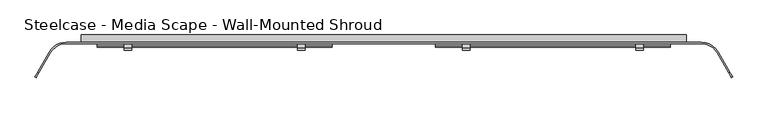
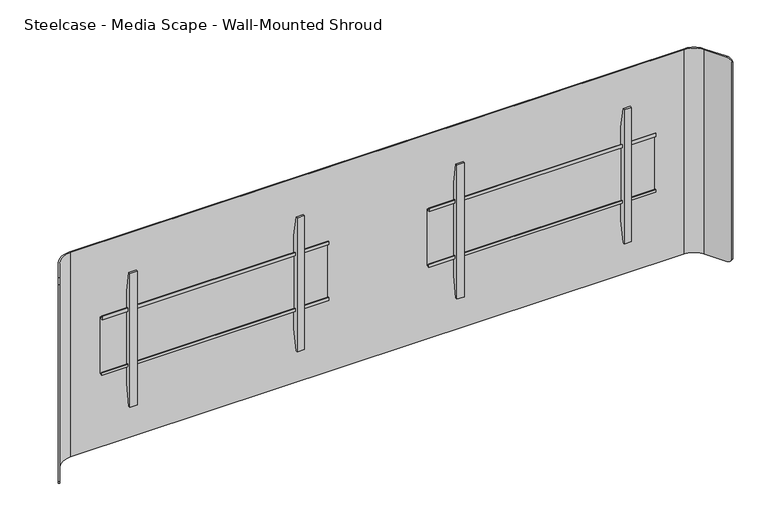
"""IFC4 building model written with IfcOpenShell, lengths in millimetres: furniture geometry, Steelcase - Media Scape - Wall-Mounted Shroud : Dual - 46''."""

from ifc_helpers import new_model, si_unit, frame, origin, place, context, project, spatial, polyline, circle_curve, outline, extrude, source, transform, mapped, element, save
from ifc_brep_helpers import plane_surface, cylinder_surface, revolved_surface, advanced_brep


def steelcase_media_scape_wall_mounted_shroud_8cf0ba45(model_context):
    return source(origin(), model_context, "Body", "SolidModel", [
        extrude(outline(polyline([(-42.4942785, 1326.5504726), (-42.4942785, 1338.5645649), (-39.8272175, 1338.5645649), (-39.8272175, 1329.217461), (-29.9720009, 1329.217461), (-29.9720009, 1114.8922438), (-42.3164551, 1114.8922438), (-42.3164551, 1125.8142515), (-39.649394, 1125.8142515), (-39.649394, 1117.557052), (-32.6531824, 1117.557052), (-32.6531824, 1326.5504726), (-42.4942785, 1326.5504726)])), frame((179.451, 0.0, 0.0), z_axis=(1.0, 0.0, 0.0), x_axis=(0.0, 1.0, 0.0)), (0.0, 0.0, 1.0), 812.8),
        extrude(outline(polyline([(-32.6531824, 1397.4971148), (-32.6531824, 1045.6825607), (-46.5049349, 968.0546949), (-53.3399828, 968.0546949), (-53.3399828, 1476.0547192), (-46.5050076, 1476.0547192), (-32.6531824, 1397.4971148)])), frame((273.052426, 0.0, 0.0), z_axis=(1.0, 0.0, 0.0), x_axis=(0.0, 1.0, 0.0)), (0.0, 0.0, 1.0), 26.1592872),
        extrude(outline(polyline([(-32.6531824, 1397.4971148), (-32.6531824, 1045.6825607), (-46.5049349, 968.0546949), (-53.3399828, 968.0546949), (-53.3399828, 1476.0547192), (-46.5050076, 1476.0547192), (-32.6531824, 1397.4971148)])), frame((872.4902868, 0.0, 0.0), z_axis=(1.0, 0.0, 0.0), x_axis=(0.0, 1.0, 0.0)), (0.0, 0.0, 1.0), 26.1592872),
        extrude(outline(polyline([(-42.4942785, 1326.5504726), (-42.4942785, 1338.5645649), (-39.8272175, 1338.5645649), (-39.8272175, 1329.217461), (-29.9720009, 1329.217461), (-29.9720009, 1114.8922438), (-42.3164551, 1114.8922438), (-42.3164551, 1125.8142515), (-39.649394, 1125.8142515), (-39.649394, 1117.557052), (-32.6531824, 1117.557052), (-32.6531824, 1326.5504726), (-42.4942785, 1326.5504726)])), frame((-992.251, 0.0, 0.0), z_axis=(1.0, 0.0, 0.0), x_axis=(0.0, 1.0, 0.0)), (0.0, 0.0, 1.0), 812.8),
        extrude(outline(polyline([(-32.6531824, 1397.4971148), (-32.6531824, 1045.6825607), (-46.5049349, 968.0546949), (-53.3399828, 968.0546949), (-53.3399828, 1476.0547192), (-46.5050076, 1476.0547192), (-32.6531824, 1397.4971148)])), frame((-299.2117132, 0.0, 0.0), z_axis=(1.0, 0.0, 0.0), x_axis=(0.0, 1.0, 0.0)), (0.0, 0.0, 1.0), 26.1592872),
        extrude(outline(polyline([(-32.6531824, 1397.4971148), (-32.6531824, 1045.6825607), (-46.5049349, 968.0546949), (-53.3399828, 968.0546949), (-53.3399828, 1476.0547192), (-46.5050076, 1476.0547192), (-32.6531824, 1397.4971148)])), frame((-898.649574, 0.0, 0.0), z_axis=(1.0, 0.0, 0.0), x_axis=(0.0, 1.0, 0.0)), (0.0, 0.0, 1.0), 26.1592872),
        advanced_brep(
        [(-1154.5586135, -61.722, 1610.614), (-1099.566002, -29.9720009, 1610.614), (1099.566, -29.9720009, 1610.614), (1154.5586135, -61.722, 1610.614), (1194.679586, -131.2135628, 1610.614), (1198.6390541, -128.9275628, 1610.614), (1158.5180817, -59.436, 1610.614), (1099.566002, -25.4, 1610.614), (-1099.566, -25.4, 1610.614), (-1158.5180817, -59.436, 1610.614), (-1198.6421659, -128.9329524, 1610.614), (-1194.6826977, -131.2189524, 1610.614), (-1158.5180817, -59.436, 835.914), (-1099.566002, -25.4, 835.914), (1099.566, -25.4, 835.914), (1158.5180817, -59.436, 835.914), (1198.6906629, -129.0169518, 835.914), (1194.7311948, -131.3029518, 835.914), (1154.5586135, -61.722, 835.914), (1099.566002, -29.9720009, 835.914), (-1099.566, -29.9720009, 835.914), (-1154.5586135, -61.722, 835.914), (-1194.7454014, -131.3275584, 835.914), (-1198.7048695, -129.0415584, 835.914), (-1208.2090632, -145.5033047, 849.5242766), (-1208.2090632, -145.5033047, 1596.6227735), (-1204.2495951, -147.7893047, 1596.6227735), (-1204.2495951, -147.7893047, 849.5242766), (1204.2270866, -147.7503189, 849.4756893), (1204.2270866, -147.7503189, 1596.7433849), (1208.1865547, -145.4643189, 1596.7433849), (1208.1865547, -145.4643189, 849.4756893)],
        [
            (0, 1, circle_curve(frame((-1099.566002, -93.4719991, 1610.614), z_axis=(0.0, 0.0, -1.0), x_axis=(0.0, 1.0, 0.0)), 63.4999981)),
            (1, 2),
            (2, 3, circle_curve(frame((1099.566002, -93.4719991, 1610.614), z_axis=(0.0, 0.0, -1.0), x_axis=(0.0, 1.0, 0.0)), 63.4999981)),
            (3, 4),
            (4, 5),
            (5, 6),
            (6, 7, circle_curve(frame((1099.5660004, -93.472, 1610.614), z_axis=(0.0, 0.0, 1.0), x_axis=(0.0, 1.0, 0.0)), 68.072)),
            (7, 8),
            (8, 9, circle_curve(frame((-1099.5660004, -93.472, 1610.614), z_axis=(0.0, 0.0, 1.0), x_axis=(0.0, 1.0, 0.0)), 68.072)),
            (9, 10),
            (10, 11),
            (11, 0),
            (12, 13, circle_curve(frame((-1099.5660004, -93.472, 835.914), z_axis=(0.0, 0.0, -1.0), x_axis=(0.0, 1.0, 0.0)), 68.072)),
            (13, 14),
            (14, 15, circle_curve(frame((1099.5660004, -93.472, 835.914), z_axis=(0.0, 0.0, -1.0), x_axis=(0.0, 1.0, 0.0)), 68.072)),
            (15, 16),
            (16, 17),
            (17, 18),
            (18, 19, circle_curve(frame((1099.566002, -93.4719991, 835.914), z_axis=(0.0, 0.0, 1.0), x_axis=(0.0, 1.0, 0.0)), 63.4999981)),
            (19, 20),
            (20, 21, circle_curve(frame((-1099.566002, -93.4719991, 835.914), z_axis=(0.0, 0.0, 1.0), x_axis=(0.0, 1.0, 0.0)), 63.4999981)),
            (21, 22),
            (22, 23),
            (23, 12),
            (0, 21),
            (20, 1),
            (8, 13),
            (12, 9),
            (23, 24, circle_curve(frame((-1198.7048695, -129.0415584, 855.9928872), z_axis=(-0.8660254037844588, 0.49999999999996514, 0.0), x_axis=(-0.49999999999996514, -0.8660254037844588, 0.0)), 20.0788872)),
            (24, 25),
            (25, 10, circle_curve(frame((-1198.6421659, -128.9329524, 1590.5351128), z_axis=(-0.866025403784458, 0.4999999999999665, 0.0), x_axis=(-0.4999999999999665, -0.866025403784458, 0.0)), 20.0788872)),
            (26, 25),
            (24, 27),
            (27, 26),
            (11, 26, circle_curve(frame((-1194.6826977, -131.2189524, 1590.5351128), z_axis=(0.866025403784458, -0.4999999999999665, 0.0), x_axis=(-0.4999999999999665, -0.866025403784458, 0.0)), 20.0788872)),
            (27, 22, circle_curve(frame((-1194.7454014, -131.3275584, 855.9928872), z_axis=(0.8660254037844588, -0.49999999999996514, 0.0), x_axis=(-0.49999999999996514, -0.8660254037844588, 0.0)), 20.0788872)),
            (7, 14),
            (19, 2),
            (3, 18),
            (17, 28, circle_curve(frame((1194.7311948, -131.3029518, 855.9928872), z_axis=(-0.8660254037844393, -0.4999999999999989, 0.0), x_axis=(0.4999999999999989, -0.8660254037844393, 0.0)), 20.0788872)),
            (28, 29),
            (29, 4, circle_curve(frame((1194.679586, -131.2135628, 1590.5351128), z_axis=(-0.8660254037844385, -0.5000000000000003, 0.0), x_axis=(0.5000000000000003, -0.8660254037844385, 0.0)), 20.0788872)),
            (30, 29),
            (28, 31),
            (31, 30),
            (15, 6),
            (5, 30, circle_curve(frame((1198.6390541, -128.9275628, 1590.5351128), z_axis=(0.8660254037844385, 0.5000000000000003, 0.0), x_axis=(0.5000000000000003, -0.8660254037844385, 0.0)), 20.0788872)),
            (31, 16, circle_curve(frame((1198.6906629, -129.0169518, 855.9928872), z_axis=(0.8660254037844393, 0.4999999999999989, 0.0), x_axis=(0.4999999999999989, -0.8660254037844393, 0.0)), 20.0788872)),
        ],
        [
            plane_surface(frame((-1099.566002, -29.9720009, 1610.614), z_axis=(0.0, 0.0, 1.0), x_axis=(1.0, 0.0, 0.0))),
            plane_surface(frame((-1099.566002, -29.9720009, 835.914), z_axis=(0.0, 0.0, -1.0), x_axis=(-1.0, 0.0, 0.0))),
            revolved_surface(polyline([(-1099.566002, -29.972001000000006, 835.914), (-1099.566002, -29.972001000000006, 1610.614)]), (-1099.566002, -93.4719991, 835.914), (0.0, 0.0, -1.0)),
            cylinder_surface(frame((-1099.5660004, -93.472, 835.914), z_axis=(0.0, 0.0, 1.0), x_axis=(0.0, 1.0, 0.0)), 68.072),
            plane_surface(frame((-1158.5180817, -59.436, 1610.614), z_axis=(-0.866025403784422, 0.5000000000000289, 0.0), x_axis=(0.0, 0.0, -1.0))),
            plane_surface(frame((-1208.2090632, -145.5033047, 1610.614), z_axis=(-0.5000000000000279, -0.8660254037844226, 0.0), x_axis=(0.0, 0.0, -1.0))),
            plane_surface(frame((-1204.2495951, -147.7893047, 1610.614), z_axis=(0.8660254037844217, -0.5000000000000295, 0.0), x_axis=(0.0, 0.0, -1.0))),
            plane_surface(frame((1099.566, -25.4, 1610.614), z_axis=(0.0, 1.0, 0.0), x_axis=(0.0, 0.0, -1.0))),
            plane_surface(frame((-1099.566, -29.9720009, 1610.614), z_axis=(0.0, -1.0, 0.0), x_axis=(0.0, 0.0, -1.0))),
            plane_surface(frame((1154.5586135, -61.722, 1610.614), z_axis=(-0.8660254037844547, -0.4999999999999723, 0.0), x_axis=(0.0, 0.0, -1.0))),
            plane_surface(frame((1204.2270866, -147.7503189, 1610.614), z_axis=(0.4999999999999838, -0.866025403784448, 0.0), x_axis=(0.0, 0.0, -1.0))),
            plane_surface(frame((1208.1865547, -145.4643189, 1610.614), z_axis=(0.8660254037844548, 0.49999999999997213, 0.0), x_axis=(0.0, 0.0, -1.0))),
            cylinder_surface(frame((1099.5660004, -93.472, 835.914), z_axis=(0.0, 0.0, 1.0), x_axis=(0.0, 1.0, 0.0)), 68.072),
            revolved_surface(polyline([(1099.566002, -29.972001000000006, 835.914), (1099.566002, -29.972001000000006, 1610.614)]), (1099.566002, -93.4719991, 835.914), (0.0, 0.0, -1.0)),
            cylinder_surface(frame((-1194.6826977, -131.2189524, 1590.5351128), z_axis=(0.866025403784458, -0.4999999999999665, 0.0), x_axis=(-0.4999999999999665, -0.866025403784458, 0.0)), 20.0788872),
            cylinder_surface(frame((-1194.7454014, -131.3275584, 855.9928872), z_axis=(0.8660254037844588, -0.49999999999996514, 0.0), x_axis=(-0.49999999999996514, -0.8660254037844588, 0.0)), 20.0788872),
            cylinder_surface(frame((1209.7864297, -122.4916225, 1590.5351128), z_axis=(0.8660254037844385, 0.5000000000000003, 0.0), x_axis=(0.5000000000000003, -0.8660254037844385, 0.0)), 20.0788872),
            cylinder_surface(frame((1206.9789695, -124.2316958, 855.9928872), z_axis=(0.8660254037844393, 0.4999999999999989, 0.0), x_axis=(0.4999999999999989, -0.8660254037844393, 0.0)), 20.0788872),
        ],
        [
            (0, [[1, 2, 3, 4, 5, 6, 7, 8, 9, 10, 11, 12]]),
            (1, [[13, 14, 15, 16, 17, 18, 19, 20, 21, 22, 23, 24]]),
            (2, [[-1, 25, -21, 26]]),
            (3, [[-9, 27, -13, 28]]),
            (4, [[-28, -24, 29, 30, 31, -10]]),
            (5, [[32, -30, 33, 34]]),
            (6, [[-25, -12, 35, -34, 36, -22]]),
            (7, [[-8, 37, -14, -27]]),
            (8, [[-2, -26, -20, 38]]),
            (9, [[39, -18, 40, 41, 42, -4]]),
            (10, [[43, -41, 44, 45]]),
            (11, [[46, -6, 47, -45, 48, -16]]),
            (12, [[-7, -46, -15, -37]]),
            (13, [[-3, -38, -19, -39]]),
            (14, [[-11, -31, -32, -35]]),
            (15, [[-23, -36, -33, -29]]),
            (16, [[-5, -42, -43, -47]]),
            (17, [[-17, -48, -44, -40]]),
        ],
    ),
        extrude(outline(polyline([(912.1648167, 984.2499879), (912.1648167, 1047.75), (1534.414, 1047.75), (1534.414, -1047.75), (912.1648167, -1047.75), (912.1648167, -985.2433465), (1470.9139516, -985.2433465), (1470.9139516, 984.2499879), (912.1648167, 984.2499879)])), frame((0.0, -25.4, 0.0), z_axis=(0.0, 1.0, 0.0), x_axis=(0.0, 0.0, 1.0)), (0.0, 0.0, 1.0), 25.4),
    ])


if __name__ == "__main__":
    model = new_model("IFC4")
    model_context = context("Model", 3, world=origin())
    ifc_project = project(units=[si_unit("LENGTHUNIT", "METRE", prefix="MILLI")], contexts=[model_context])
    site = spatial("IfcSite", under=ifc_project)
    building = spatial("IfcBuilding", under=site)
    placement = place(None, origin())
    steelcase_media_scape_wall_mounted_shroud_shape = steelcase_media_scape_wall_mounted_shroud_8cf0ba45(model_context)
    element("IfcFurniture", 1, ObjectType="Steelcase - Media Scape - Wall-Mounted Shroud : Dual - 46''", at=placement, inside=building, context=model_context, shape_type="MappedRepresentation", body=[
        mapped(steelcase_media_scape_wall_mounted_shroud_shape, transform((0.0, 0.0, 0.0), x_axis=(1.0, 0.0, 0.0), y_axis=(0.0, 1.0, 0.0), z_axis=(0.0, 0.0, 1.0))),
    ])
    save(model, "model.ifc")
